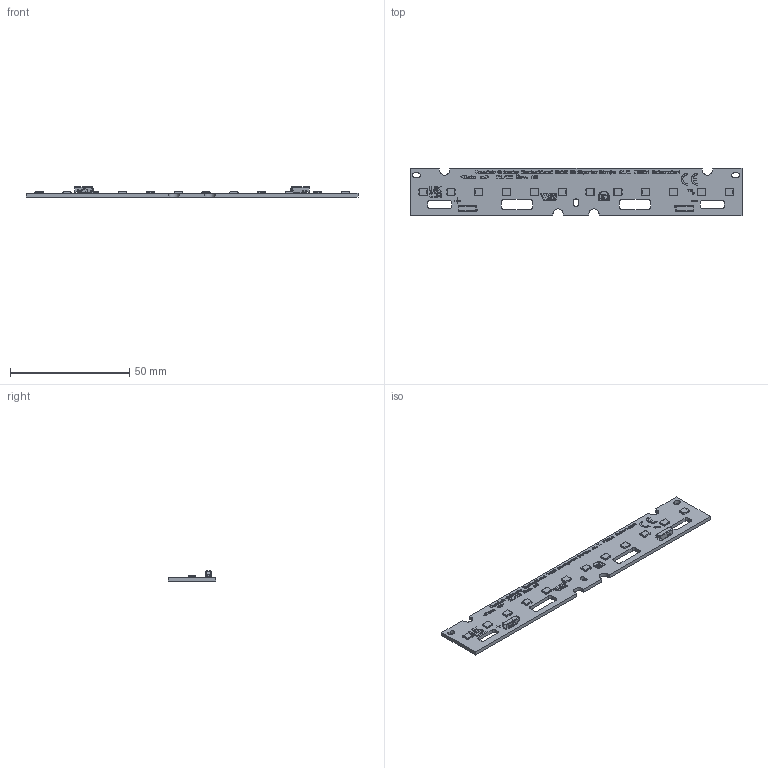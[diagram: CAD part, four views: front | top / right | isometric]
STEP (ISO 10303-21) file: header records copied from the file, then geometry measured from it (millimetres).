
FILE_DESCRIPTION(('Creo Elements/Direct Modeling STEP Export'),'2;1');
FILE_NAME('3D-Model_WU-M-732-STC.stp','2024-11-20T13:10:31',(''),(''),'PTC Creo Elements/Direct Modeling STEP processor for AP214 (Solid Model)','PTC Creo Elements/Direct Modeling 19.0E 27-Jun-2016 (C) Parametric Technology GmbH','');
FILE_SCHEMA(('AUTOMOTIVE_DESIGN { 1 0 10303 214 1 1 1 1 }'));
Length unit declared in the file: millimetre
Products named in the file (356): _____STEP_PRT_3-12100.PRT.5; _____STEP_PRT_3-12100.PRT.4; _____STEP_PRT_3-12100.PRT.3; _____STEP_PRT_3-12100.PRT.2; _____STEP_PRT_3-12100.PRT.1; _____STEP_PRT_3-12100.PRT; _____STEP_PRT-24640.PRT.5; _____STEP_PRT-24640.PRT.4; _____STEP_PRT-24640.PRT.3; _____STEP_PRT-24640.PRT.2; _____STEP_PRT-24640.PRT.1; _____STEP_PRT-24640.PRT; _____-0_STEP_PRT_3-133810.PRT.5; _____-0_STEP_PRT_3-133810.PRT.4; _____-0_STEP_PRT_3-133810.PRT.3; _____-0_STEP_PRT_3-133810.PRT.2; _____-0_STEP_PRT_3-133810.PRT.1; _____-0_STEP_PRT_3-133810.PRT; _____-0_STEP_PRT-243790.PRT.5; _____-0_STEP_PRT-243790.PRT.4; _____-0_STEP_PRT-243790.PRT.3; _____-0_STEP_PRT-243790.PRT.2; _____-0_STEP_PRT-243790.PRT.1; _____-0_STEP_PRT-243790.PRT; 3D-PLATE_WU-M-731_99-404760.PRT; 3D-PLATE_WU-M-731_98-419580.PRT; 3D-PLATE_WU-M-731_97-429780.PRT; 3D-PLATE_WU-M-731_96-440700.PRT; 3D-PLATE_WU-M-731_95-445120.PRT; 3D-PLATE_WU-M-731_94-460100.PRT; 3D-PLATE_WU-M-731_93-469110.PRT; 3D-PLATE_WU-M-731_92-479160.PRT; 3D-PLATE_WU-M-731_91-490060.PRT; 3D-PLATE_WU-M-731_90-496920.PRT; 3D-PLATE_WU-M-731_9-507760.PRT; 3D-PLATE_WU-M-731_89-516220.PRT; 3D-PLATE_WU-M-731_88-527500.PRT; 3D-PLATE_WU-M-731_87-533130.PRT; 3D-PLATE_WU-M-731_86-543120.PRT; 3D-PLATE_WU-M-731_85-557660.PRT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
Assembly tree (178 placements, depth 2):
  _____STEP_PRT_3-12100.PRT.5
    _____STEP_PRT_3-12100.PRT.5
  _____STEP_PRT_3-12100.PRT.4
    _____STEP_PRT_3-12100.PRT.4
  _____STEP_PRT_3-12100.PRT.3
    _____STEP_PRT_3-12100.PRT.3
  _____STEP_PRT_3-12100.PRT.2
    _____STEP_PRT_3-12100.PRT.2
  _____STEP_PRT_3-12100.PRT.1
    _____STEP_PRT_3-12100.PRT.1
Bounding box: 139 x 20 x 4.3 mm (x, y, z)
Volume: 4238.9 mm3; surface area: 7591.7 mm2
Topology: 178 solids, 178 shells, 6859 faces, 18985 edges, 12436 vertices
Faces by surface type: plane 5041, cylinder 1818
Entity records: 276698 total; most frequent: CARTESIAN_POINT 38572, ORIENTED_EDGE 37970, DIRECTION 36742, EDGE_CURVE 18985, VECTOR 15310, LINE 15310, VERTEX_POINT 12436, AXIS2_PLACEMENT_3D 10716
